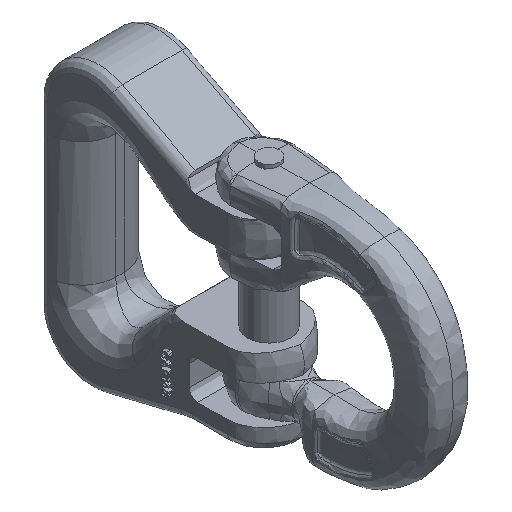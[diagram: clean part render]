
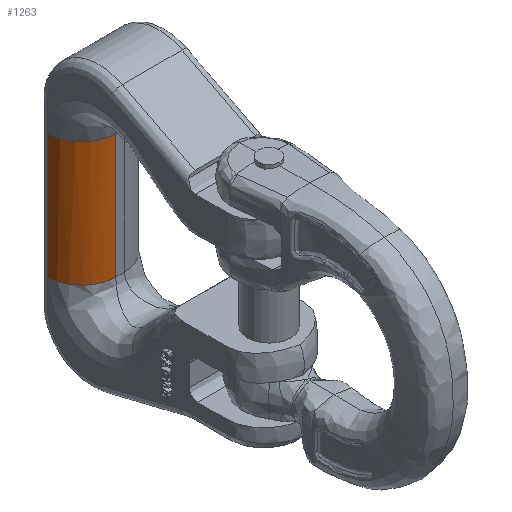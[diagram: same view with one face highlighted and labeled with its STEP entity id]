
A CAD part, isometric view. The second image highlights one B-rep face of the part: STEP entity #1263.
In plain terms, the highlighted cylindrical face has radius 8 mm (diameter 16 mm), a partial arc.
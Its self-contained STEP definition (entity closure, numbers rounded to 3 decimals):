
#278=CYLINDRICAL_SURFACE('',#6098,8.);
#388=LINE('',#19375,#575);
#398=LINE('',#19474,#585);
#575=VECTOR('',#6706,1.);
#585=VECTOR('',#6742,1.);
#1033=(
BOUNDED_CURVE()
B_SPLINE_CURVE(2,(#19475,#19476,#19477),.UNSPECIFIED.,.F.,.F.)
B_SPLINE_CURVE_WITH_KNOTS((3,3),(0.,1.),.UNSPECIFIED.)
CURVE()
GEOMETRIC_REPRESENTATION_ITEM()
RATIONAL_B_SPLINE_CURVE((1.,0.707,1.))
REPRESENTATION_ITEM('')
);
#1263=ADVANCED_FACE('',(#1645),#278,.T.);
#1645=FACE_OUTER_BOUND('',#2016,.T.);
#2016=EDGE_LOOP('',(#3302,#3303,#3304,#3305));
#3302=ORIENTED_EDGE('',*,*,#5101,.T.);
#3303=ORIENTED_EDGE('',*,*,#5102,.F.);
#3304=ORIENTED_EDGE('',*,*,#5103,.F.);
#3305=ORIENTED_EDGE('',*,*,#5083,.F.);
#4244=VERTEX_POINT('',#18384);
#4321=VERTEX_POINT('',#19234);
#4330=VERTEX_POINT('',#19333);
#4332=VERTEX_POINT('',#19373);
#5083=EDGE_CURVE('',#4332,#4330,#388,.T.);
#5101=EDGE_CURVE('',#4332,#4321,#5725,.T.);
#5102=EDGE_CURVE('',#4244,#4321,#398,.T.);
#5103=EDGE_CURVE('',#4330,#4244,#1033,.T.);
#5725=B_SPLINE_CURVE_WITH_KNOTS('',3,(#19438,#19439,#19440,#19441,#19442,
#19443),.UNSPECIFIED.,.F.,.F.,(4,2,4),(0.,0.5,1.),.UNSPECIFIED.);
#6098=AXIS2_PLACEMENT_3D('',#19478,#6743,#6744);
#6706=DIRECTION('',(0.,0.,-1.));
#6742=DIRECTION('',(0.,0.,1.));
#6743=DIRECTION('',(0.,0.,1.));
#6744=DIRECTION('',(-1.,0.,0.));
#18384=CARTESIAN_POINT('',(-9.,42.8,13.619));
#19234=CARTESIAN_POINT('',(-9.,42.8,42.619));
#19333=CARTESIAN_POINT('',(-1.,34.8,13.619));
#19373=CARTESIAN_POINT('',(-1.,34.8,42.619));
#19375=CARTESIAN_POINT('',(-1.,34.8,13.619));
#19438=CARTESIAN_POINT('',(-1.,34.8,42.619));
#19439=CARTESIAN_POINT('',(-3.094,34.8,42.619));
#19440=CARTESIAN_POINT('',(-5.176,35.662,42.619));
#19441=CARTESIAN_POINT('',(-8.138,38.624,42.619));
#19442=CARTESIAN_POINT('',(-9.,40.706,42.619));
#19443=CARTESIAN_POINT('',(-9.,42.8,42.619));
#19474=CARTESIAN_POINT('',(-9.,42.8,13.619));
#19475=CARTESIAN_POINT('',(-1.,34.8,13.619));
#19476=CARTESIAN_POINT('',(-9.,34.8,13.619));
#19477=CARTESIAN_POINT('',(-9.,42.8,13.619));
#19478=CARTESIAN_POINT('',(-1.,42.8,13.619));
